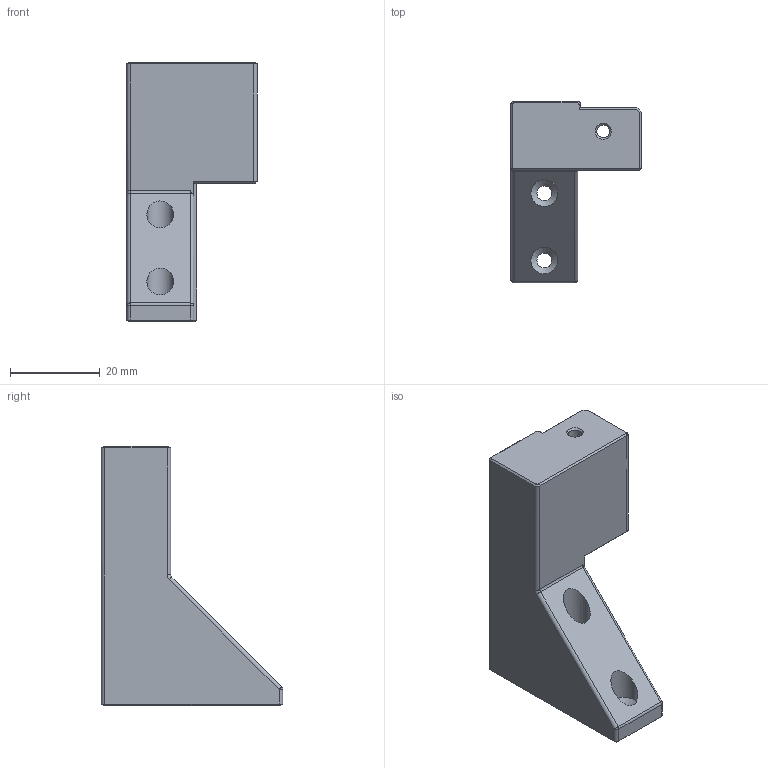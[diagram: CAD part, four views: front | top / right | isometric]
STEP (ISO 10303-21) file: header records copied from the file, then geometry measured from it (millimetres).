
FILE_DESCRIPTION(/* description */ (''),/* implementation_level */ '2;1');
FILE_NAME(/* name */ 'ZeroClick Center Dock.step',/* time_stamp */ '2023-12-26T11:59:37+01:00',/* author */ (''),/* organization */ (''),/* preprocessor_version */ 'ST-DEVELOPER v20',/* originating_system */ 'Autodesk Translation Framework v12.14.0.127',/* authorisation */ '');
FILE_SCHEMA (('AUTOMOTIVE_DESIGN { 1 0 10303 214 3 1 1 }'));
Length unit declared in the file: millimetre
Products named in the file (1): ZeroClick Center Dock
Bounding box: 29.15 x 40.5 x 58 mm (x, y, z)
Volume: 21549.1 mm3; surface area: 7394 mm2
Topology: 1 solids, 1 shells, 89 faces, 209 edges, 123 vertices
Faces by surface type: plane 53, cylinder 16, cone 10, bspline 6, sphere 2, torus 2
Full cylindrical faces by diameter (mm): 2.85 x1, 3.3 x2, 5.8 x1, 6 x2
Entity records: 2738 total; most frequent: CARTESIAN_POINT 709, ORIENTED_EDGE 418, DIRECTION 388, EDGE_CURVE 209, LINE 148, VECTOR 148, VERTEX_POINT 123, AXIS2_PLACEMENT_3D 120
